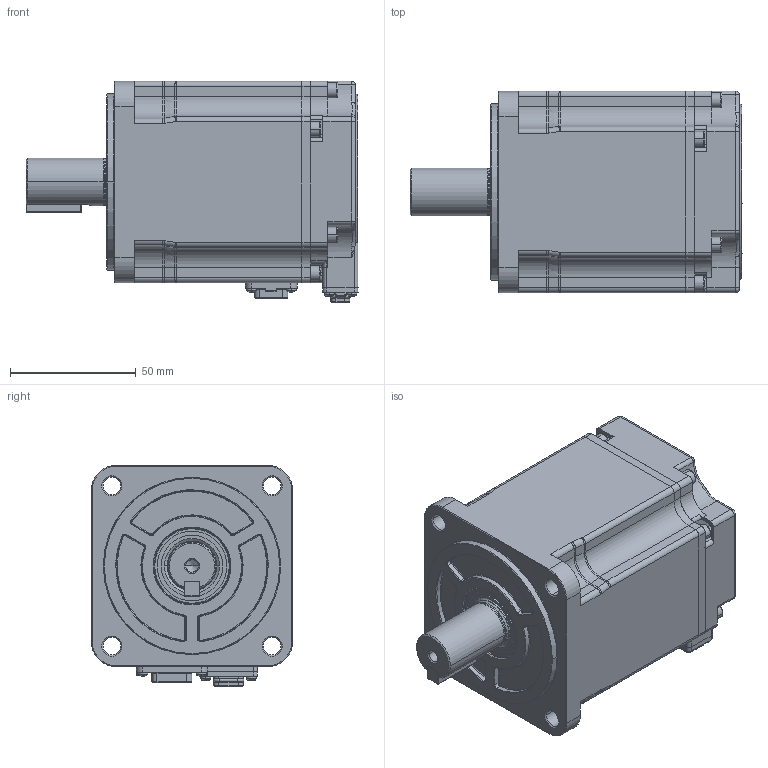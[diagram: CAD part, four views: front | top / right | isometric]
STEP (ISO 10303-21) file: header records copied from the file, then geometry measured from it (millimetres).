
FILE_DESCRIPTION((''),'2;1');
FILE_NAME('IMS20B-08M75B30C-2-XX-AUL_ASM','2024-09-09T09:08:14',('admin'),(''),'CREO PARAMETRIC BY PTC INC, 2019080','CREO PARAMETRIC BY PTC INC, 2019080','');
FILE_SCHEMA(('CONFIG_CONTROL_DESIGN'));
Products named in the file (24): 75B-0003_1_AF0; SC-MC6P-AP2G-04_05__4_AF0; 75B-0002_ASM_2_AF0_ASM; 75B-0005_1_AF0; 600400_4_AF0; 620100_4_AF0; 80--0001_3_AF0; 75B-0004_ASM_1_AF0_ASM; 80-20001_4; SC-MC7P-A60G-18_4; ISO7045-M2X4_1_AF0; ISO7045-M2X4_1_AF1; ISO7045-M2X4_1_AF2; ISO7045-M2X4_1_AF3; ISO7045-M2X5_1; ISO4762-M3X10_3; ISO4762-M3X10_3_AF0; ISO4762-M3X10_3_AF1; ISO4762-M3X10_3_AF2; ISO4762-M3X10_3_AF3; A6X6X22000_5; 8030-19-40001_6; 75B-0001_ASM_6_AF0_ASM; IMS20B-08M75B30C-2-XX-AUL_ASM
Assembly tree (29 placements, depth 4):
  IMS20B-08M75B30C-2-XX-AUL_ASM
    75B-0001_ASM_6_AF0_ASM
      75B-0002_ASM_2_AF0_ASM
        75B-0003_1_AF0
        SC-MC6P-AP2G-04_05__4_AF0
      75B-0004_ASM_1_AF0_ASM
        75B-0005_1_AF0
        600400_4_AF0
        620100_4_AF0
        80--0001_3_AF0
      80-20001_4
      SC-MC7P-A60G-18_4
      ISO7045-M2X4_1_AF0
      ISO7045-M2X4_1_AF1
      ISO7045-M2X4_1_AF2
      ISO7045-M2X4_1_AF3
      ISO7045-M2X5_1  x4
      ISO4762-M3X10_3  x4
      ISO4762-M3X10_3_AF0
      ISO4762-M3X10_3_AF1
      ISO4762-M3X10_3_AF2
      ISO4762-M3X10_3_AF3
      A6X6X22000_5
      8030-19-40001_6
Bounding box: 131.85 x 80 x 87.95 mm (x, y, z)
Volume: 192054.1 mm3; surface area: 112122.7 mm2
Topology: 26 solids, 58 shells, 2600 faces, 6759 edges, 4313 vertices
Faces by surface type: plane 1287, cylinder 817, torus 203, cone 154, sphere 56, extrusion 49, bspline 34
Entity records: 81889 total; most frequent: CARTESIAN_POINT 19579, DIRECTION 13371, ORIENTED_EDGE 12630, EDGE_CURVE 6367, AXIS2_PLACEMENT_3D 4750, VERTEX_POINT 4097, VECTOR 3871, LINE 3822
